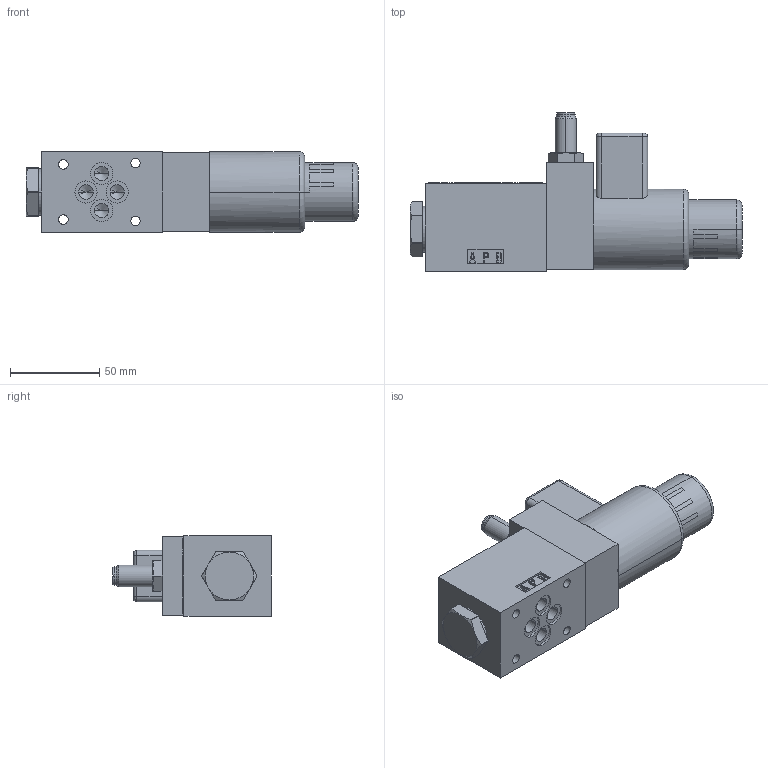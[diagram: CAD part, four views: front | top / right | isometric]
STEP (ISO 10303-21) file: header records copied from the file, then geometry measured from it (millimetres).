
FILE_DESCRIPTION((''),'2;1');
FILE_NAME('RPE3_062_SB','2011-03-14T',('tvatras'),(''),'PRO/ENGINEER BY PARAMETRIC TECHNOLOGY CORPORATION, 2010180','PRO/ENGINEER BY PARAMETRIC TECHNOLOGY CORPORATION, 2010180','');
FILE_SCHEMA(('CONFIG_CONTROL_DESIGN'));
Length unit declared in the file: millimetre
Products named in the file (1): RPE3_062_SB
Bounding box: 186.5 x 89 x 45.3 mm (x, y, z)
Volume: 358086.1 mm3; surface area: 45959.7 mm2
Topology: 1 solids, 3 shells, 437 faces, 1177 edges, 775 vertices
Faces by surface type: plane 310, cylinder 85, cone 30, torus 4, bspline 4, sphere 4
Entity records: 13769 total; most frequent: CARTESIAN_POINT 2670, ORIENTED_EDGE 2320, DIRECTION 2223, EDGE_CURVE 1162, VECTOR 881, LINE 881, VERTEX_POINT 773, AXIS2_PLACEMENT_3D 671
